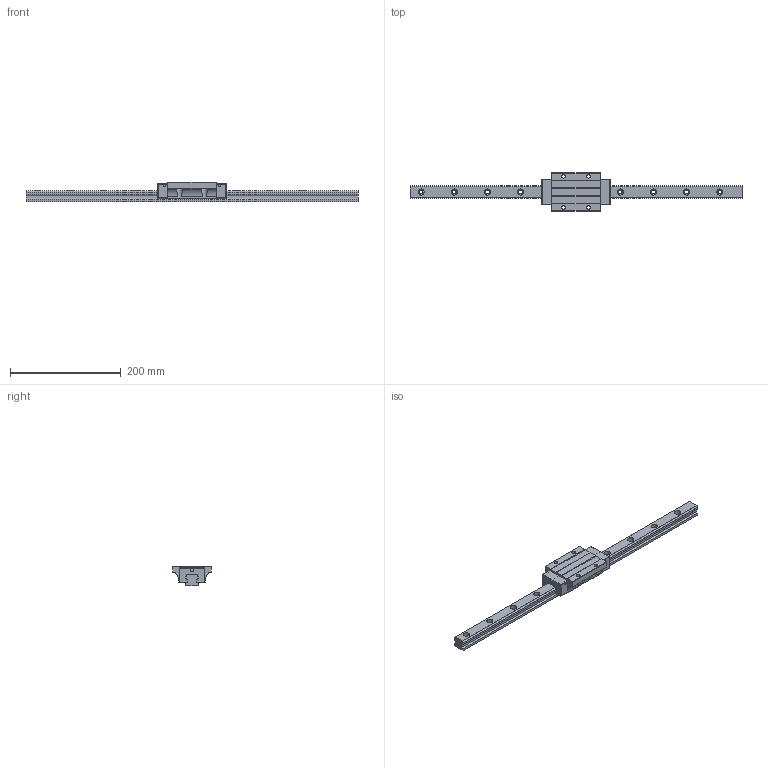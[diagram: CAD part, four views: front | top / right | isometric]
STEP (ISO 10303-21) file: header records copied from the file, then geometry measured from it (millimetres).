
FILE_DESCRIPTION (( 'STEP AP203' ), '1' );
FILE_NAME ('TRH25FE-SZ.STEP', '2024-06-26T06:25:28', ( '' ), ( '' ), 'SwSTEP 2.0', 'SolidWorks 2022', '' );
FILE_SCHEMA (( 'CONFIG_CONTROL_DESIGN' ));
Length unit declared in the file: millimetre
Products named in the file (1): TRH25FE-SZ
Bounding box: 600 x 70 x 36 mm (x, y, z)
Volume: 386498.5 mm3; surface area: 89465.2 mm2
Topology: 2 solids, 2 shells, 230 faces, 622 edges, 408 vertices
Faces by surface type: cylinder 130, plane 96, sphere 4
Entity records: 7857 total; most frequent: CARTESIAN_POINT 1801, DIRECTION 1276, ORIENTED_EDGE 1236, EDGE_CURVE 618, AXIS2_PLACEMENT_3D 459, VERTEX_POINT 408, VECTOR 358, LINE 358
